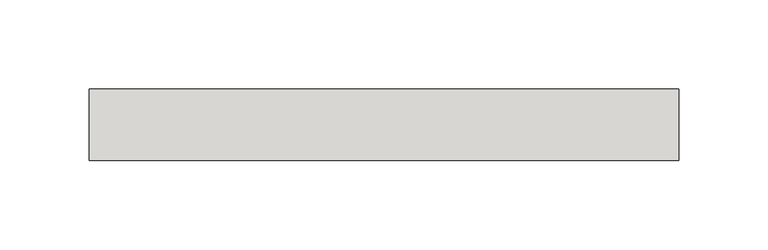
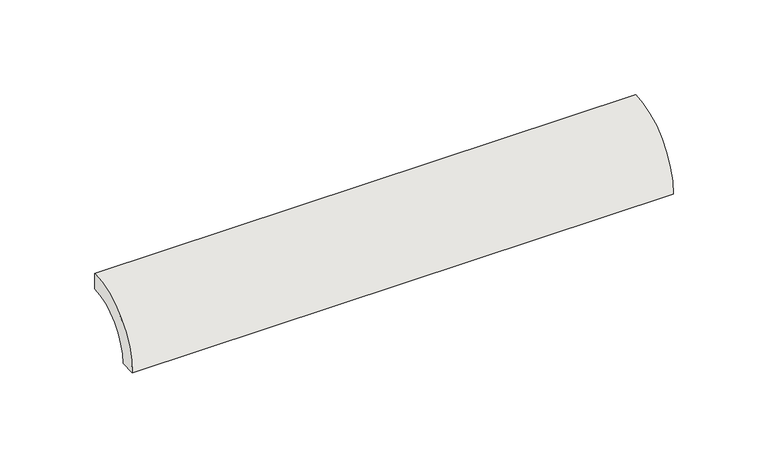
"""IFC4 building model written with IfcOpenShell, lengths in millimetres: slab geometry, ROSA GRES_183 : Pieza 183_Tao_Beige_Liso."""

from ifc_helpers import new_model, si_unit, point, frame, frame_2d, origin, origin_2d, place, context, project, spatial, polyline, circle_curve, trimmed, segment, composite_curve, outline, extrude, source, transform, mapped, element, save


def slab_f5defd6c(model_context):
    return source(origin(), model_context, "Body", "SweptSolid", [
        extrude(outline(composite_curve([segment(polyline([(0.0, 40.0), (0.0, 30.0265886)]), True, "CONTINUOUS"), segment(trimmed(circle_curve(frame_2d((-0.0044453, 0.0044453)), 30.0221435), [point((0.0, 30.0265886))], [point((-30.0265886, 0.0))], True, "CARTESIAN"), True, "CONTINUOUS"), segment(polyline([(-30.0265886, 0.0), (-40.0, 0.0)]), True, "CONTINUOUS"), segment(trimmed(circle_curve(origin_2d(), 40.0), [point((-40.0, 0.0))], [point((0.0, 40.0))], False, "CARTESIAN"), True, "CONTINUOUS")], self_intersect=False)), frame((0.0, 0.0, 0.0), z_axis=(1.0, 0.0, 0.0), x_axis=(0.0, 1.0, 0.0)), (0.0, 0.0, 1.0), 329.9734111),
    ])


if __name__ == "__main__":
    model = new_model("IFC4")
    model_context = context("Model", 3, world=origin())
    ifc_project = project(units=[si_unit("LENGTHUNIT", "METRE", prefix="MILLI")], contexts=[model_context])
    site = spatial("IfcSite", under=ifc_project)
    building = spatial("IfcBuilding", under=site)
    placement = place(None, origin())
    slab_shape = slab_f5defd6c(model_context)
    element("IfcSlab", 1, ObjectType="ROSA GRES_183 : Pieza 183_Tao_Beige_Liso", at=placement, inside=building, context=model_context, shape_type="MappedRepresentation", body=[
        mapped(slab_shape, transform((0.0, 0.0, 0.0), x_axis=(1.0, 0.0, 0.0), y_axis=(0.0, 1.0, 0.0), z_axis=(0.0, 0.0, 1.0))),
    ])
    save(model, "model.ifc")
